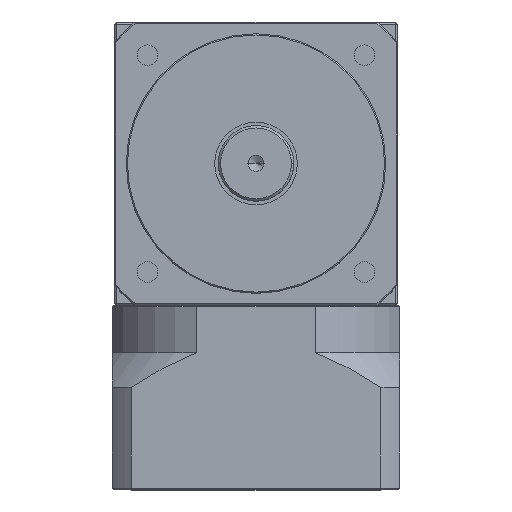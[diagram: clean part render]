
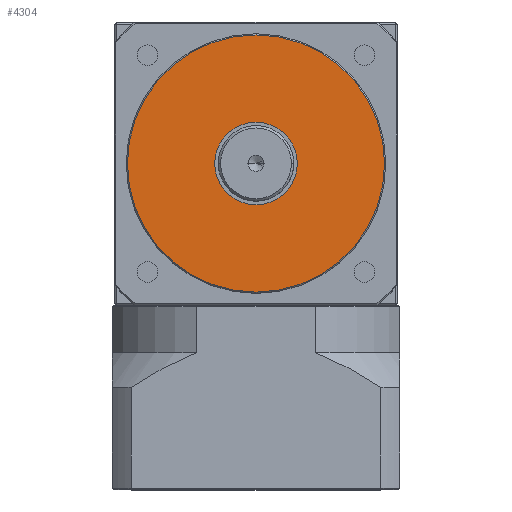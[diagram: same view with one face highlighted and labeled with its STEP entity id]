
A CAD part, top view. The second image highlights one B-rep face of the part: STEP entity #4304.
In plain terms, the highlighted planar face has unit normal (0, 0, 1).
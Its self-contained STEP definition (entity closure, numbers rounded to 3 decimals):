
#27 = AXIS2_PLACEMENT_3D ( 'NONE', #2111, #2109, #2108 ) ;
#28 = AXIS2_PLACEMENT_3D ( 'NONE', #2117, #2116, #2113 ) ;
#402 = ORIENTED_EDGE ( 'NONE', *, *, #1535, .F. ) ;
#406 = ORIENTED_EDGE ( 'NONE', *, *, #1534, .T. ) ;
#407 = ORIENTED_EDGE ( 'NONE', *, *, #3624, .T. ) ;
#408 = ORIENTED_EDGE ( 'NONE', *, *, #3604, .F. ) ;
#699 = CIRCLE ( 'NONE', #28, 54.5 ) ;
#700 = CIRCLE ( 'NONE', #27, 17.5 ) ;
#865 = CIRCLE ( 'NONE', #1643, 17.5 ) ;
#894 = CIRCLE ( 'NONE', #1632, 54.5 ) ;
#1295 = FACE_OUTER_BOUND ( 'NONE', #4636, .T. ) ;
#1534 = EDGE_CURVE ( 'NONE', #5280, #5281, #699, .T. ) ;
#1535 = EDGE_CURVE ( 'NONE', #5303, #5296, #700, .T. ) ;
#1632 = AXIS2_PLACEMENT_3D ( 'NONE', #3193, #3214, #3229 ) ;
#1643 = AXIS2_PLACEMENT_3D ( 'NONE', #3904, #3903, #3902 ) ;
#1723 = FACE_BOUND ( 'NONE', #4627, .T. ) ;
#2108 = DIRECTION ( 'NONE',  ( 1., 0., 0. ) ) ;
#2109 = DIRECTION ( 'NONE',  ( 0., 0., 1. ) ) ;
#2111 = CARTESIAN_POINT ( 'NONE',  ( 0., 0., 141. ) ) ;
#2113 = DIRECTION ( 'NONE',  ( 1., 0., 0. ) ) ;
#2116 = DIRECTION ( 'NONE',  ( 0., 0., 1. ) ) ;
#2117 = CARTESIAN_POINT ( 'NONE',  ( 0., 0., 141. ) ) ;
#2139 = CARTESIAN_POINT ( 'NONE',  ( 0., 0., 141. ) ) ;
#2142 = PLANE ( 'NONE',  #3327 ) ;
#2144 = DIRECTION ( 'NONE',  ( 0., 0., 1. ) ) ;
#2145 = DIRECTION ( 'NONE',  ( 1., 0., 0. ) ) ;
#2857 = CARTESIAN_POINT ( 'NONE',  ( -54.5, 0., 141. ) ) ;
#2858 = CARTESIAN_POINT ( 'NONE',  ( 54.5, 0., 141. ) ) ;
#2873 = CARTESIAN_POINT ( 'NONE',  ( 17.5, 0., 141. ) ) ;
#2880 = CARTESIAN_POINT ( 'NONE',  ( -17.5, 0., 141. ) ) ;
#3193 = CARTESIAN_POINT ( 'NONE',  ( 0., 0., 141. ) ) ;
#3214 = DIRECTION ( 'NONE',  ( 0., 0., 1. ) ) ;
#3229 = DIRECTION ( 'NONE',  ( 1., 0., 0. ) ) ;
#3327 = AXIS2_PLACEMENT_3D ( 'NONE', #2139, #2144, #2145 ) ;
#3604 = EDGE_CURVE ( 'NONE', #5296, #5303, #865, .T. ) ;
#3624 = EDGE_CURVE ( 'NONE', #5281, #5280, #894, .T. ) ;
#3902 = DIRECTION ( 'NONE',  ( 1., 0., 0. ) ) ;
#3903 = DIRECTION ( 'NONE',  ( 0., 0., 1. ) ) ;
#3904 = CARTESIAN_POINT ( 'NONE',  ( 0., 0., 141. ) ) ;
#4304 = ADVANCED_FACE ( 'NONE', ( #1295, #1723 ), #2142, .T. ) ;
#4627 = EDGE_LOOP ( 'NONE', ( #402, #408 ) ) ;
#4636 = EDGE_LOOP ( 'NONE', ( #406, #407 ) ) ;
#5280 = VERTEX_POINT ( 'NONE', #2857 ) ;
#5281 = VERTEX_POINT ( 'NONE', #2858 ) ;
#5296 = VERTEX_POINT ( 'NONE', #2873 ) ;
#5303 = VERTEX_POINT ( 'NONE', #2880 ) ;
